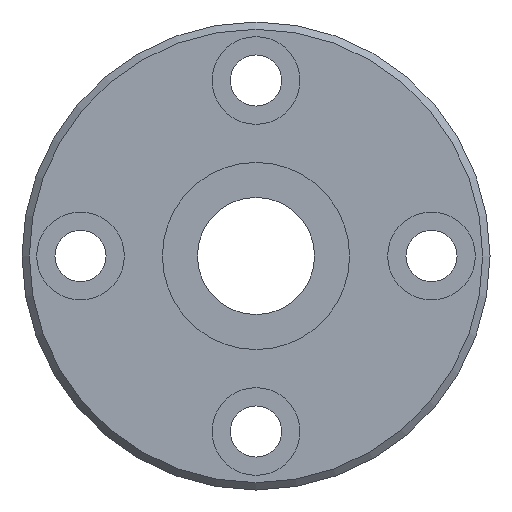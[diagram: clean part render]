
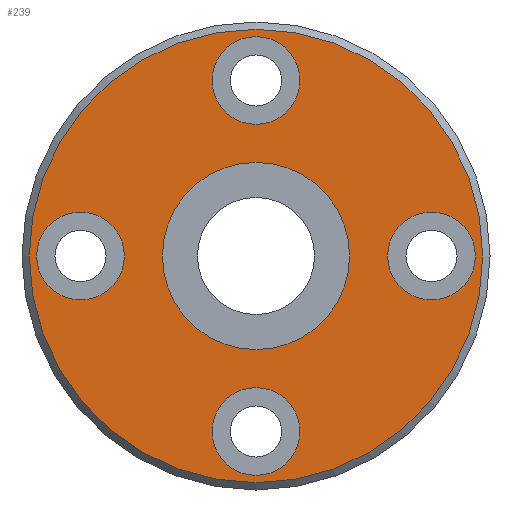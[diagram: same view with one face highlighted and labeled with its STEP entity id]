
A CAD part, left-side view. The second image highlights one B-rep face of the part: STEP entity #239.
In plain terms, the highlighted planar face has unit normal (-1, 0, 0).
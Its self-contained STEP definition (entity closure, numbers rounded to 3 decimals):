
#164=CARTESIAN_POINT('',(0.0,0.,15.5));
#165=VERTEX_POINT('',#164);
#166=CARTESIAN_POINT('',(0.0,0.0,0.0));
#167=DIRECTION('',(1.0,0.0,0.0));
#168=DIRECTION('',(0.0,0.0,-1.0));
#169=AXIS2_PLACEMENT_3D('',#166,#167,#168);
#170=CIRCLE('',#169,15.5);
#171=EDGE_CURVE('',#165,#165,#170,.T.);
#176=CARTESIAN_POINT('',(0.0,0.0,7.2));
#177=DIRECTION('',(-1.0,0.0,0.0));
#178=DIRECTION('',(0.0,0.0,1.0));
#179=AXIS2_PLACEMENT_3D('',#176,#177,#178);
#180=PLANE('',#179);
#181=ORIENTED_EDGE('',*,*,#171,.F.);
#182=EDGE_LOOP('',(#181));
#183=FACE_OUTER_BOUND('',#182,.T.);
#184=CARTESIAN_POINT('',(0.0,0.0,6.4));
#185=VERTEX_POINT('',#184);
#186=CARTESIAN_POINT('',(0.0,0.0,0.0));
#187=DIRECTION('',(-1.0,0.0,0.0));
#188=DIRECTION('',(0.0,0.0,1.0));
#189=AXIS2_PLACEMENT_3D('',#186,#187,#188);
#190=CIRCLE('',#189,6.4);
#191=EDGE_CURVE('',#185,#185,#190,.T.);
#192=ORIENTED_EDGE('',*,*,#191,.F.);
#193=EDGE_LOOP('',(#192));
#194=FACE_BOUND('',#193,.T.);
#195=CARTESIAN_POINT('',(0.0,15.,0.));
#196=VERTEX_POINT('',#195);
#197=CARTESIAN_POINT('',(0.0,12.,0.));
#198=DIRECTION('',(1.0,0.0,0.0));
#199=DIRECTION('',(0.0,1.0,0.0));
#200=AXIS2_PLACEMENT_3D('',#197,#198,#199);
#201=CIRCLE('',#200,3.);
#202=EDGE_CURVE('',#196,#196,#201,.T.);
#203=ORIENTED_EDGE('',*,*,#202,.T.);
#204=EDGE_LOOP('',(#203));
#205=FACE_BOUND('',#204,.T.);
#206=CARTESIAN_POINT('',(0.0,-9.,0.));
#207=VERTEX_POINT('',#206);
#208=CARTESIAN_POINT('',(0.0,-12.,0.));
#209=DIRECTION('',(1.0,0.0,0.0));
#210=DIRECTION('',(0.0,1.0,0.0));
#211=AXIS2_PLACEMENT_3D('',#208,#209,#210);
#212=CIRCLE('',#211,3.);
#213=EDGE_CURVE('',#207,#207,#212,.T.);
#214=ORIENTED_EDGE('',*,*,#213,.T.);
#215=EDGE_LOOP('',(#214));
#216=FACE_BOUND('',#215,.T.);
#217=CARTESIAN_POINT('',(0.0,3.,12.));
#218=VERTEX_POINT('',#217);
#219=CARTESIAN_POINT('',(0.0,0.,12.));
#220=DIRECTION('',(1.0,0.0,0.0));
#221=DIRECTION('',(0.0,1.0,0.0));
#222=AXIS2_PLACEMENT_3D('',#219,#220,#221);
#223=CIRCLE('',#222,3.);
#224=EDGE_CURVE('',#218,#218,#223,.T.);
#225=ORIENTED_EDGE('',*,*,#224,.T.);
#226=EDGE_LOOP('',(#225));
#227=FACE_BOUND('',#226,.T.);
#228=CARTESIAN_POINT('',(0.0,3.,-12.));
#229=VERTEX_POINT('',#228);
#230=CARTESIAN_POINT('',(0.0,0.,-12.));
#231=DIRECTION('',(1.0,0.0,0.0));
#232=DIRECTION('',(0.0,1.0,0.0));
#233=AXIS2_PLACEMENT_3D('',#230,#231,#232);
#234=CIRCLE('',#233,3.);
#235=EDGE_CURVE('',#229,#229,#234,.T.);
#236=ORIENTED_EDGE('',*,*,#235,.T.);
#237=EDGE_LOOP('',(#236));
#238=FACE_BOUND('',#237,.T.);
#239=ADVANCED_FACE('',(#183,#194,#205,#216,#227,#238),#180,.T.);
